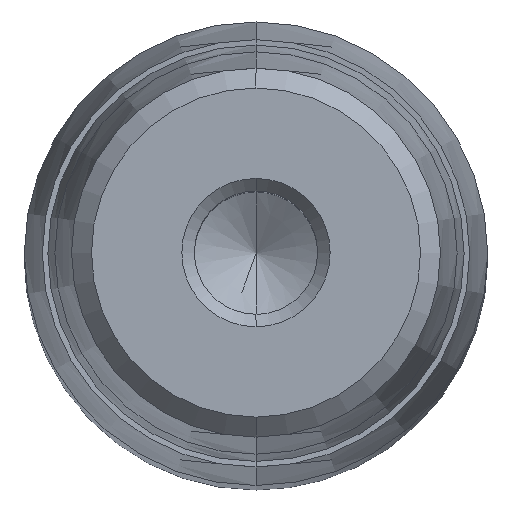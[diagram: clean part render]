
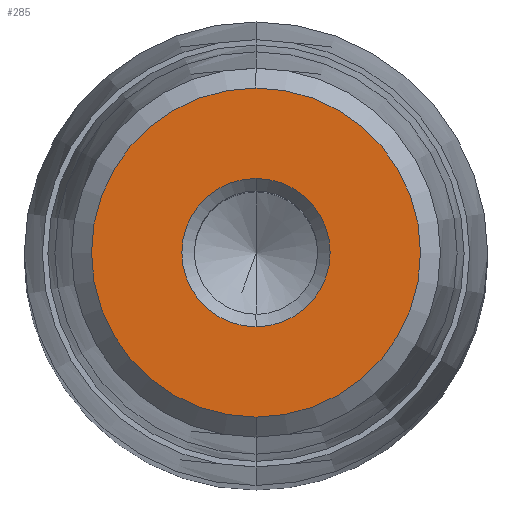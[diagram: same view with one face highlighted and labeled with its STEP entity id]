
A CAD part, top view. The second image highlights one B-rep face of the part: STEP entity #285.
In plain terms, the highlighted planar face has unit normal (0, 0, 1).
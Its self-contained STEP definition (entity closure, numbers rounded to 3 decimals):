
#164=CARTESIAN_POINT('Axis2P3D Location',(0.,0.,35.)) ;
#168=CARTESIAN_POINT('Vertex',(4.,0.,35.)) ;
#170=CARTESIAN_POINT('Vertex',(0.,-4.,35.)) ;
#173=CARTESIAN_POINT('Axis2P3D Location',(0.,0.,35.)) ;
#177=CARTESIAN_POINT('Vertex',(0.,4.,35.)) ;
#228=CARTESIAN_POINT('Axis2P3D Location',(0.,4.,35.)) ;
#233=CARTESIAN_POINT('Axis2P3D Location',(0.,0.,35.)) ;
#237=CARTESIAN_POINT('Vertex',(0.,8.875,35.)) ;
#239=CARTESIAN_POINT('Vertex',(8.875,0.,35.)) ;
#242=CARTESIAN_POINT('Axis2P3D Location',(0.,0.,35.)) ;
#246=CARTESIAN_POINT('Vertex',(-8.875,0.,35.)) ;
#249=CARTESIAN_POINT('Axis2P3D Location',(0.,0.,35.)) ;
#253=CARTESIAN_POINT('Vertex',(0.,-8.875,35.)) ;
#256=CARTESIAN_POINT('Axis2P3D Location',(0.,0.,35.)) ;
#267=CARTESIAN_POINT('Axis2P3D Location',(0.,0.,35.)) ;
#271=CARTESIAN_POINT('Vertex',(-4.,0.,35.)) ;
#274=CARTESIAN_POINT('Axis2P3D Location',(0.,0.,35.)) ;
#165=DIRECTION('Axis2P3D Direction',(-0.,0.,1.)) ;
#174=DIRECTION('Axis2P3D Direction',(-0.,0.,1.)) ;
#229=DIRECTION('Axis2P3D Direction',(0.,0.,-1.)) ;
#230=DIRECTION('Axis2P3D XDirection',(0.,1.,0.)) ;
#234=DIRECTION('Axis2P3D Direction',(0.,0.,-1.)) ;
#243=DIRECTION('Axis2P3D Direction',(0.,0.,-1.)) ;
#250=DIRECTION('Axis2P3D Direction',(0.,0.,-1.)) ;
#257=DIRECTION('Axis2P3D Direction',(0.,0.,-1.)) ;
#268=DIRECTION('Axis2P3D Direction',(0.,0.,-1.)) ;
#275=DIRECTION('Axis2P3D Direction',(0.,0.,-1.)) ;
#166=AXIS2_PLACEMENT_3D('Circle Axis2P3D',#164,#165,$) ;
#175=AXIS2_PLACEMENT_3D('Circle Axis2P3D',#173,#174,$) ;
#231=AXIS2_PLACEMENT_3D('Plane Axis2P3D',#228,#229,#230) ;
#235=AXIS2_PLACEMENT_3D('Circle Axis2P3D',#233,#234,$) ;
#244=AXIS2_PLACEMENT_3D('Circle Axis2P3D',#242,#243,$) ;
#251=AXIS2_PLACEMENT_3D('Circle Axis2P3D',#249,#250,$) ;
#258=AXIS2_PLACEMENT_3D('Circle Axis2P3D',#256,#257,$) ;
#269=AXIS2_PLACEMENT_3D('Circle Axis2P3D',#267,#268,$) ;
#276=AXIS2_PLACEMENT_3D('Circle Axis2P3D',#274,#275,$) ;
#262=ORIENTED_EDGE('',*,*,#241,.F.) ;
#263=ORIENTED_EDGE('',*,*,#248,.F.) ;
#264=ORIENTED_EDGE('',*,*,#255,.F.) ;
#265=ORIENTED_EDGE('',*,*,#260,.F.) ;
#280=ORIENTED_EDGE('',*,*,#172,.T.) ;
#281=ORIENTED_EDGE('',*,*,#273,.T.) ;
#282=ORIENTED_EDGE('',*,*,#278,.T.) ;
#283=ORIENTED_EDGE('',*,*,#179,.T.) ;
#284=FACE_BOUND('',#279,.T.) ;
#285=ADVANCED_FACE('722-25x160x183',(#266,#284),#232,.F.) ;
#167=CIRCLE('generated circle',#166,4.) ;
#176=CIRCLE('generated circle',#175,4.) ;
#236=CIRCLE('generated circle',#235,8.875) ;
#245=CIRCLE('generated circle',#244,8.875) ;
#252=CIRCLE('generated circle',#251,8.875) ;
#259=CIRCLE('generated circle',#258,8.875) ;
#270=CIRCLE('generated circle',#269,4.) ;
#277=CIRCLE('generated circle',#276,4.) ;
#172=EDGE_CURVE('',#169,#171,#167,.F.) ;
#179=EDGE_CURVE('',#178,#169,#176,.F.) ;
#241=EDGE_CURVE('',#238,#240,#236,.T.) ;
#248=EDGE_CURVE('',#247,#238,#245,.T.) ;
#255=EDGE_CURVE('',#254,#247,#252,.T.) ;
#260=EDGE_CURVE('',#240,#254,#259,.T.) ;
#273=EDGE_CURVE('',#171,#272,#270,.T.) ;
#278=EDGE_CURVE('',#272,#178,#277,.T.) ;
#261=EDGE_LOOP('',(#262,#263,#264,#265)) ;
#279=EDGE_LOOP('',(#280,#281,#282,#283)) ;
#266=FACE_OUTER_BOUND('',#261,.T.) ;
#232=PLANE('Plane',#231) ;
#169=VERTEX_POINT('',#168) ;
#171=VERTEX_POINT('',#170) ;
#178=VERTEX_POINT('',#177) ;
#238=VERTEX_POINT('',#237) ;
#240=VERTEX_POINT('',#239) ;
#247=VERTEX_POINT('',#246) ;
#254=VERTEX_POINT('',#253) ;
#272=VERTEX_POINT('',#271) ;
